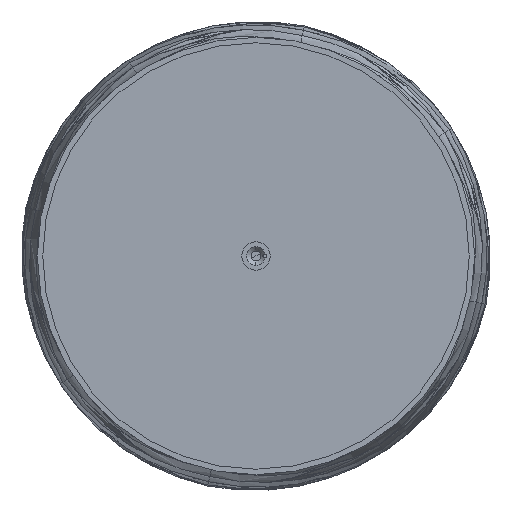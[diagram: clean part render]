
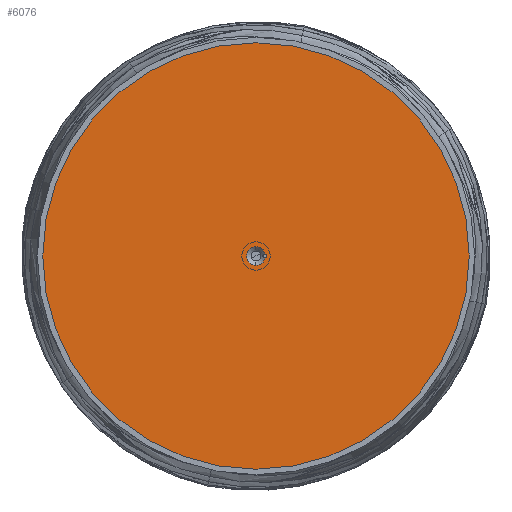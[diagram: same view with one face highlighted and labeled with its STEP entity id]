
A CAD part, front view. The second image highlights one B-rep face of the part: STEP entity #6076.
In plain terms, the highlighted planar face has unit normal (0, -1, 0).
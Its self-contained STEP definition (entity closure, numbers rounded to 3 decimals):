
#351 = VERTEX_POINT ( 'NONE', #109060 ) ;
#3093 = VERTEX_POINT ( 'NONE', #101689 ) ;
#6076 = ADVANCED_FACE ( 'NONE', ( #20834, #103412 ), #118556, .F. ) ;
#6391 = DIRECTION ( 'NONE',  ( 0., 0., 1. ) ) ;
#7734 = CARTESIAN_POINT ( 'NONE',  ( -26.068, -1344.685, -225.807 ) ) ;
#9336 = DIRECTION ( 'NONE',  ( 0., 0., 1. ) ) ;
#10810 = CIRCLE ( 'NONE', #100383, 8.5 ) ;
#20834 = FACE_BOUND ( 'NONE', #80921, .T. ) ;
#21756 = ORIENTED_EDGE ( 'NONE', *, *, #127790, .T. ) ;
#37474 = CARTESIAN_POINT ( 'NONE',  ( -26.068, -1344.685, -30.807 ) ) ;
#38372 = ORIENTED_EDGE ( 'NONE', *, *, #117452, .F. ) ;
#48305 = DIRECTION ( 'NONE',  ( 0., 1., 0. ) ) ;
#49714 = DIRECTION ( 'NONE',  ( 0., 0., 1. ) ) ;
#55871 = EDGE_CURVE ( 'NONE', #155450, #137616, #10810, .T. ) ;
#56414 = EDGE_LOOP ( 'NONE', ( #143237, #38372 ) ) ;
#57273 = AXIS2_PLACEMENT_3D ( 'NONE', #110761, #48305, #58761 ) ;
#57600 = CIRCLE ( 'NONE', #57273, 1.65 ) ;
#57795 = DIRECTION ( 'NONE',  ( 0., 1., 0. ) ) ;
#58761 = DIRECTION ( 'NONE',  ( 0., 0., 1. ) ) ;
#61033 = CIRCLE ( 'NONE', #158606, 195. ) ;
#64908 = CARTESIAN_POINT ( 'NONE',  ( -26.068, -1344.685, -30.807 ) ) ;
#66193 = ORIENTED_EDGE ( 'NONE', *, *, #150479, .T. ) ;
#68343 = AXIS2_PLACEMENT_3D ( 'NONE', #81467, #105525, #9336 ) ;
#78032 = AXIS2_PLACEMENT_3D ( 'NONE', #119367, #104239, #80974 ) ;
#79171 = VERTEX_POINT ( 'NONE', #135914 ) ;
#80096 = DIRECTION ( 'NONE',  ( 0., 1., 0. ) ) ;
#80212 = ORIENTED_EDGE ( 'NONE', *, *, #101958, .T. ) ;
#80921 = EDGE_LOOP ( 'NONE', ( #145697, #66193, #80212, #21756 ) ) ;
#80974 = DIRECTION ( 'NONE',  ( 0., 0., 1. ) ) ;
#81467 = CARTESIAN_POINT ( 'NONE',  ( -26.068, -1344.685, -30.807 ) ) ;
#85189 = CIRCLE ( 'NONE', #143989, 8.5 ) ;
#85992 = AXIS2_PLACEMENT_3D ( 'NONE', #152289, #145763, #121703 ) ;
#87332 = DIRECTION ( 'NONE',  ( 0., 1., 0. ) ) ;
#90840 = CIRCLE ( 'NONE', #78032, 8.5 ) ;
#91665 = EDGE_CURVE ( 'NONE', #112977, #79171, #61033, .T. ) ;
#94628 = DIRECTION ( 'NONE',  ( 0., 0., 1. ) ) ;
#100383 = AXIS2_PLACEMENT_3D ( 'NONE', #110598, #87332, #49714 ) ;
#101689 = CARTESIAN_POINT ( 'NONE',  ( -17.722, -1344.685, -29.194 ) ) ;
#101958 = EDGE_CURVE ( 'NONE', #351, #3093, #90840, .T. ) ;
#103412 = FACE_OUTER_BOUND ( 'NONE', #56414, .T. ) ;
#104239 = DIRECTION ( 'NONE',  ( 0., 1., 0. ) ) ;
#105525 = DIRECTION ( 'NONE',  ( 0., 1., 0. ) ) ;
#109060 = CARTESIAN_POINT ( 'NONE',  ( -26.068, -1344.685, -22.307 ) ) ;
#110598 = CARTESIAN_POINT ( 'NONE',  ( -26.068, -1344.685, -30.807 ) ) ;
#110761 = CARTESIAN_POINT ( 'NONE',  ( -18.068, -1344.685, -30.807 ) ) ;
#112977 = VERTEX_POINT ( 'NONE', #7734 ) ;
#117452 = EDGE_CURVE ( 'NONE', #79171, #112977, #152723, .T. ) ;
#118556 = PLANE ( 'NONE',  #85992 ) ;
#119367 = CARTESIAN_POINT ( 'NONE',  ( -26.068, -1344.685, -30.807 ) ) ;
#119838 = CARTESIAN_POINT ( 'NONE',  ( -26.068, -1344.685, -39.307 ) ) ;
#121703 = DIRECTION ( 'NONE',  ( 0., 0., 1. ) ) ;
#127790 = EDGE_CURVE ( 'NONE', #3093, #155450, #57600, .T. ) ;
#135914 = CARTESIAN_POINT ( 'NONE',  ( -26.068, -1344.685, 164.193 ) ) ;
#137616 = VERTEX_POINT ( 'NONE', #119838 ) ;
#143237 = ORIENTED_EDGE ( 'NONE', *, *, #91665, .F. ) ;
#143989 = AXIS2_PLACEMENT_3D ( 'NONE', #37474, #57795, #94628 ) ;
#145697 = ORIENTED_EDGE ( 'NONE', *, *, #55871, .T. ) ;
#145763 = DIRECTION ( 'NONE',  ( 0., 1., 0. ) ) ;
#150479 = EDGE_CURVE ( 'NONE', #137616, #351, #85189, .T. ) ;
#152289 = CARTESIAN_POINT ( 'NONE',  ( -26.068, -1344.685, -30.807 ) ) ;
#152723 = CIRCLE ( 'NONE', #68343, 195. ) ;
#154305 = CARTESIAN_POINT ( 'NONE',  ( -17.722, -1344.685, -32.421 ) ) ;
#155450 = VERTEX_POINT ( 'NONE', #154305 ) ;
#158606 = AXIS2_PLACEMENT_3D ( 'NONE', #64908, #80096, #6391 ) ;
